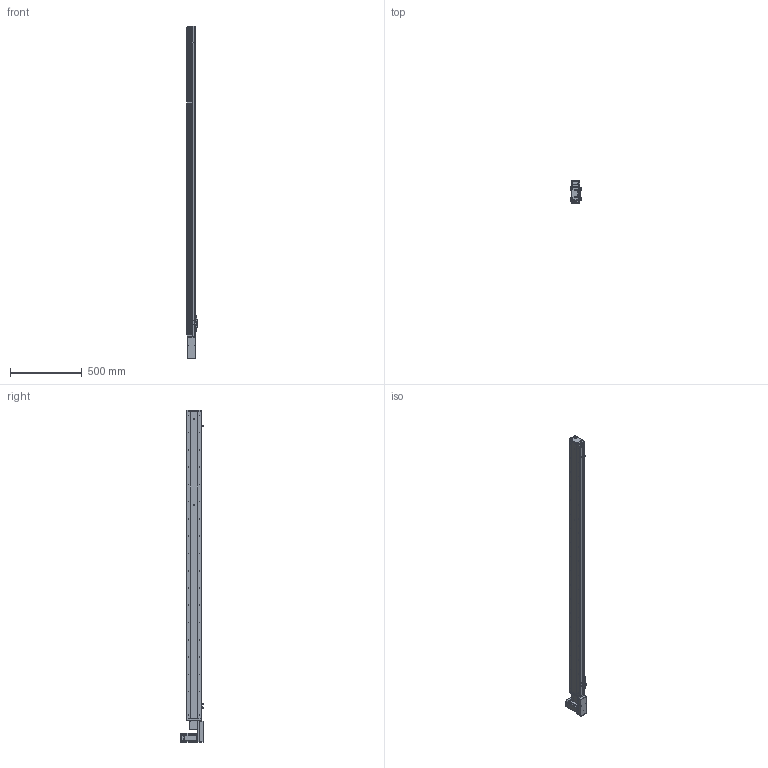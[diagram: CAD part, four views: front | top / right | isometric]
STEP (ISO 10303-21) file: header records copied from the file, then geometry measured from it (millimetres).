
FILE_DESCRIPTION (( 'STEP AP214' ), '1' );
FILE_NAME ('KSD100B-S1950-MRB-CR.STEP', '2019-11-13T06:34:19', ( '微软用户' ), ( '微软中国' ), 'SwSTEP 2.0', 'SolidWorks 2014', '' );
FILE_SCHEMA (( 'AUTOMOTIVE_DESIGN' ));
Length unit declared in the file: millimetre
Products named in the file (15): 100宽底板全封闭1950行程同步带; KSD100B-S1950-MRB-CR; MHMD042G1CA_2_03; 100宽马达安装板连板上下折丝杆同步带; U倰嫖萇EEㄜSX672; 感应片100宽全封闭; 100宽马达安装板同步带右; 悵誘欶奻狟殏; 100遵鎮湛假蚾啣蜊; 100宽端板同步带全封闭; 100宽滚珠螺姆安装板1防护罩; 100宽滚珠螺姆安装板1; 100遵裔啣揤啣; 100遵裔啣1950俴最; 100宽侧板1950行程同步带
Assembly tree (18 placements, depth 2):
  KSD100B-S1950-MRB-CR
    100宽底板全封闭1950行程同步带
    100宽侧板1950行程同步带  x2
    100遵裔啣1950俴最
    100遵裔啣揤啣  x2
    100宽滚珠螺姆安装板1
    100宽滚珠螺姆安装板1防护罩
    100宽端板同步带全封闭
    100遵鎮湛假蚾啣蜊
    100宽马达安装板同步带右
    感应片100宽全封闭
    U倰嫖萇EEㄜSX672  x3
    100宽马达安装板连板上下折丝杆同步带
    悵誘欶奻狟殏
    MHMD042G1CA_2_03
Bounding box: 70 x 156.2 x 2307 mm (x, y, z)
Volume: 4196570.5 mm3; surface area: 1821417.3 mm2
Topology: 17 solids, 18 shells, 2057 faces, 5764 edges, 3621 vertices
Faces by surface type: cylinder 945, plane 741, cone 351, bspline 20
Entity records: 73388 total; most frequent: CARTESIAN_POINT 11450, DIRECTION 10074, ORIENTED_EDGE 9220, EDGE_CURVE 4682, AXIS2_PLACEMENT_3D 3703, VERTEX_POINT 3099, VECTOR 2668, LINE 2668
